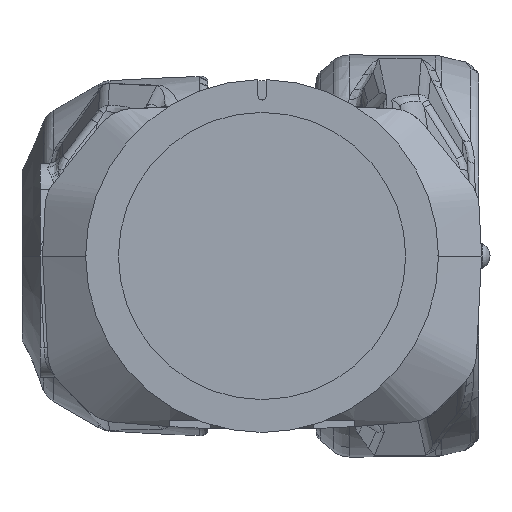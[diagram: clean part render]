
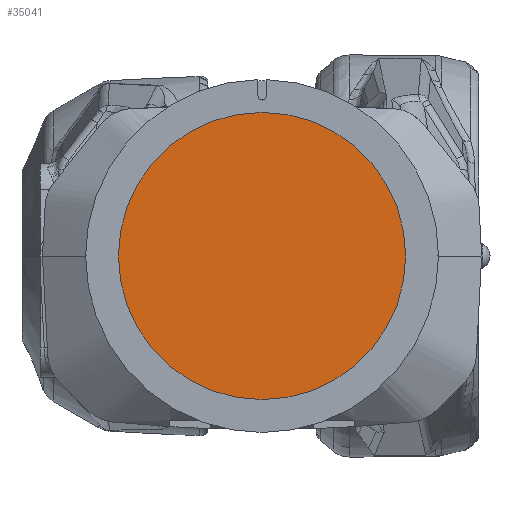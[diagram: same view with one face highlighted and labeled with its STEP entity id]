
A CAD part, left-side view. The second image highlights one B-rep face of the part: STEP entity #35041.
In plain terms, the highlighted planar face has unit normal (-1, 0, 0).
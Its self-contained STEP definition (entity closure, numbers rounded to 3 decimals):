
#195 = CARTESIAN_POINT ( 'NONE',  ( 515.1, -70., 1765. ) ) ;
#408 = CARTESIAN_POINT ( 'NONE',  ( 515.1, 70., 1765. ) ) ;
#1481 = DIRECTION ( 'NONE',  ( 0., 0., -1. ) ) ;
#1482 = DIRECTION ( 'NONE',  ( 1., 0., 0. ) ) ;
#1488 = CARTESIAN_POINT ( 'NONE',  ( 515.1, 0., 1835. ) ) ;
#1491 = PLANE ( 'NONE',  #11001 ) ;
#5541 = ORIENTED_EDGE ( 'NONE', *, *, #7157, .T. ) ;
#6246 = DIRECTION ( 'NONE',  ( 0., 1., 0. ) ) ;
#6496 = DIRECTION ( 'NONE',  ( -1., 0., 0. ) ) ;
#6597 = CARTESIAN_POINT ( 'NONE',  ( 515.1, 0., 1765. ) ) ;
#6718 = AXIS2_PLACEMENT_3D ( 'NONE', #22697, #22693, #22692 ) ;
#6964 = AXIS2_PLACEMENT_3D ( 'NONE', #6597, #6496, #6246 ) ;
#7157 = EDGE_CURVE ( 'NONE', #38864, #39747, #30345, .T. ) ;
#11001 = AXIS2_PLACEMENT_3D ( 'NONE', #1488, #1482, #1481 ) ;
#15425 = FACE_OUTER_BOUND ( 'NONE', #41545, .T. ) ;
#17256 = ORIENTED_EDGE ( 'NONE', *, *, #28743, .T. ) ;
#22692 = DIRECTION ( 'NONE',  ( 0., 1., 0. ) ) ;
#22693 = DIRECTION ( 'NONE',  ( -1., 0., 0. ) ) ;
#22697 = CARTESIAN_POINT ( 'NONE',  ( 515.1, 0., 1765. ) ) ;
#28743 = EDGE_CURVE ( 'NONE', #39747, #38864, #33321, .T. ) ;
#30345 = CIRCLE ( 'NONE', #6718, 70. ) ;
#33321 = CIRCLE ( 'NONE', #6964, 70. ) ;
#35041 = ADVANCED_FACE ( 'NONE', ( #15425 ), #1491, .F. ) ;
#38864 = VERTEX_POINT ( 'NONE', #195 ) ;
#39747 = VERTEX_POINT ( 'NONE', #408 ) ;
#41545 = EDGE_LOOP ( 'NONE', ( #17256, #5541 ) ) ;
